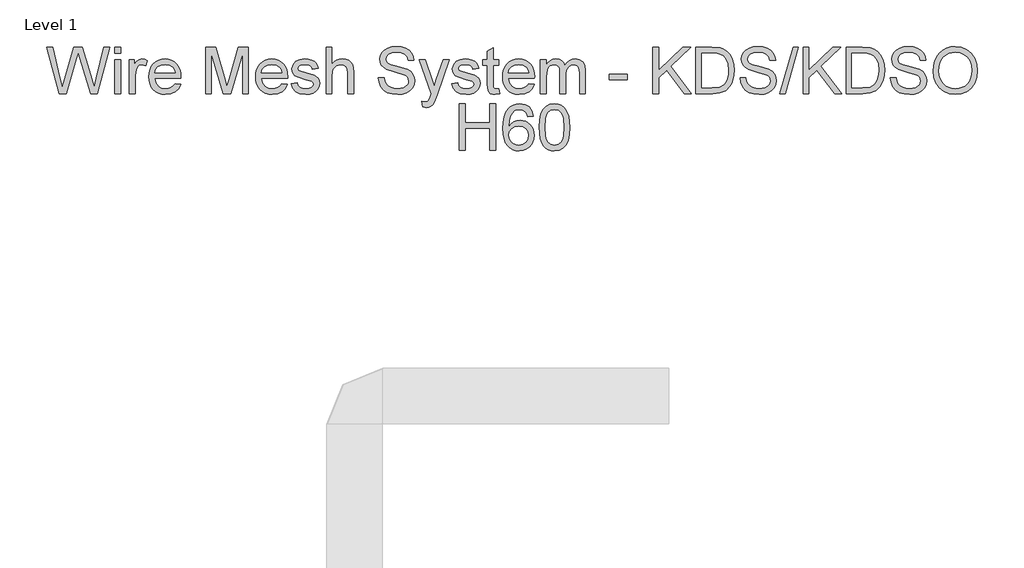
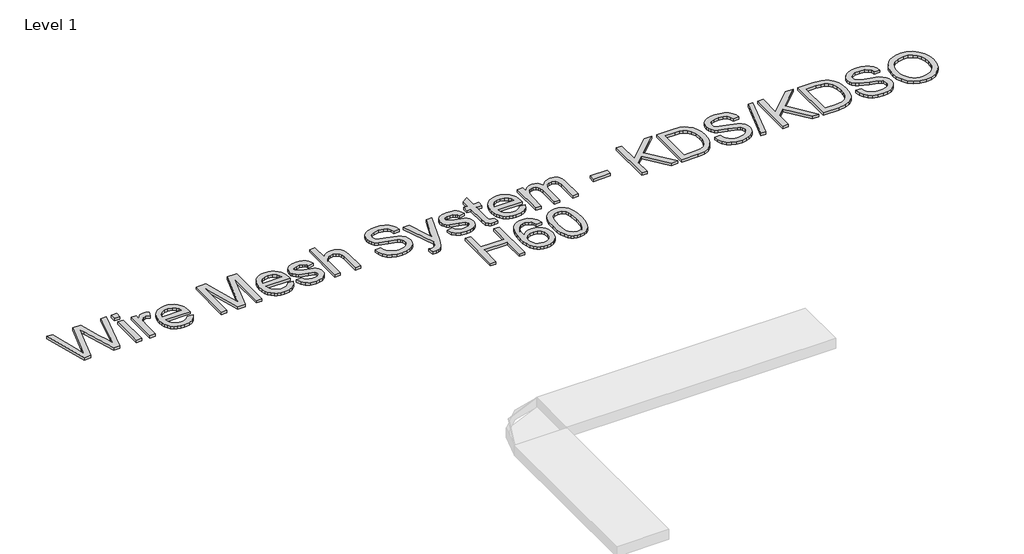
# One storey, part 28 of 32: 1 proxy.
"""IFC4 building model written with IfcOpenShell, lengths in millimetres."""

from ifc_helpers import new_model, si_unit, origin, origin_with_axes, place, context, project, spatial, polyline, outline, extrude, element, save

model = new_model("IFC4")

# Units and contexts
model_context = context("Model", 3, world=origin())
ifc_project = project(units=[si_unit("LENGTHUNIT", "METRE", prefix="MILLI")], contexts=[model_context])

# Site, building, storey
site = spatial("IfcSite", under=ifc_project)
building = spatial("IfcBuilding", under=site)
storey = spatial("IfcBuildingStorey", under=building, Name="Level 1", Elevation=0.0)

# Proxy
placement = place(None, origin())
element("IfcBuildingElementProxy", 1, Name="250mm Arial 3", ObjectType="250mm Arial 3", at=placement, inside=storey, context=model_context, shape_type="SweptSolid", body=[
    extrude(outline(polyline([(10674.6936773, 57703.1379564), (10606.2063125, 57954.2787318), (10638.5799281, 57954.2787318), (10678.3111836, 57789.2223433), (10690.5739168, 57738.2706869), (10703.6950412, 57783.3362313), (10753.4817379, 57954.2787318), (10800.1414376, 57954.2787318), (10836.3165005, 57830.3638131), (10851.8135296, 57784.3785637), (10863.2331998, 57738.2706869), (10875.128051, 57787.7508153), (10915.2271885, 57954.2787318), (10947.600804, 57954.2787318), (10879.0521256, 57703.1379564), (10845.5135504, 57703.1379564), (10785.3035305, 57896.8891405), (10776.9035583, 57923.9284672), (10767.4612537, 57891.3709106), (10712.5855228, 57703.1379564), (10674.6936773, 57703.1379564)])), origin_with_axes(), (0.0, 0.0, 1.0), 15.0),
    extrude(outline(polyline([(10975.0693264, 57922.8861348), (10975.0693264, 57954.2787318), (11006.4619233, 57954.2787318), (11006.4619233, 57922.8861348), (10975.0693264, 57922.8861348)])), origin_with_axes(), (0.0, 0.0, 1.0), 15.0),
    extrude(outline(polyline([(10975.0693264, 57703.1379564), (10975.0693264, 57887.5694633), (11006.4619233, 57887.5694633), (11006.4619233, 57703.1379564), (10975.0693264, 57703.1379564)])), origin_with_axes(), (0.0, 0.0, 1.0), 15.0),
    extrude(outline(polyline([(11053.5508187, 57703.1379564), (11053.5508187, 57887.5694633), (11081.019341, 57887.5694633), (11081.019341, 57860.284882), (11091.1667527, 57876.1038078), (11100.5170867, 57885.423485), (11120.1374598, 57891.4935379), (11135.7724446, 57889.0716481), (11151.652684, 57881.8059787), (11141.1680472, 57853.6630061), (11119.0951275, 57860.100941), (11109.7218008, 57858.5527709), (11101.3448212, 57853.9082608), (11090.0324498, 57836.7404343), (11084.9434156, 57800.0748621), (11084.9434156, 57703.1379564), (11053.5508187, 57703.1379564)])), origin_with_axes(), (0.0, 0.0, 1.0), 15.0),
    extrude(outline(polyline([(11300.3996374, 57758.075001), (11331.1790977, 57754.1509264), (11320.0889884, 57730.9590323), (11302.3923316, 57713.6225933), (11278.4876661, 57702.8160597), (11248.7735308, 57699.2138818), (11229.2949455, 57700.7678), (11211.939346, 57705.4295547), (11196.7067321, 57713.1991458), (11183.597104, 57724.0765733), (11173.0549855, 57737.759101), (11165.5249009, 57753.9439928), (11161.0068502, 57772.6312485), (11159.5008333, 57793.8208682), (11161.0221786, 57815.7290074), (11165.5862146, 57835.0389801), (11173.1929413, 57851.7507861), (11183.8423586, 57865.8644256), (11196.9174979, 57877.0771622), (11211.8013903, 57885.0862598), (11228.4940358, 57889.8917184), (11246.9954345, 57891.4935379), (11264.9009409, 57889.8955505), (11281.0934969, 57885.1015883), (11295.5731023, 57877.1116512), (11308.3397572, 57865.9257393), (11318.7611643, 57851.8427566), (11326.2050265, 57835.1616074), (11330.6713439, 57815.8822916), (11332.1601163, 57794.0048092), (11331.9761753, 57785.5435233), (11190.8934302, 57785.5435233), (11196.3273538, 57762.0450609), (11208.9503048, 57744.7699355), (11227.1681278, 57734.1473429), (11249.3866674, 57730.6064787), (11266.0946414, 57732.2466193), (11280.1661277, 57737.1670409), (11291.6011264, 57745.6743121), (11300.3996374, 57758.075001)]), holes=[polyline([(11190.8934302, 57816.9361202), (11300.7675194, 57816.9361202), (11296.5215481, 57833.5214669), (11288.1982179, 57845.3856612), (11269.8960887, 57856.4221211), (11246.8728071, 57860.100941), (11225.7119282, 57857.1655493), (11208.2145408, 57848.359374), (11196.0514423, 57834.632777), (11190.8934302, 57816.9361202)])]), origin_with_axes(), (0.0, 0.0, 1.0), 15.0),
    extrude(outline(polyline([(11465.5786533, 57703.1379564), (11465.5786533, 57954.2787318), (11519.5959929, 57954.2787318), (11570.9768449, 57777.2661784), (11581.3388544, 57740.2940379), (11592.5592553, 57780.3318617), (11643.0817159, 57954.2787318), (11697.0990556, 57954.2787318), (11697.0990556, 57703.1379564), (11665.7064586, 57703.1379564), (11665.7064586, 57922.8861348), (11602.6146965, 57703.1379564), (11560.0630124, 57703.1379564), (11496.9712502, 57922.8861348), (11496.9712502, 57703.1379564), (11465.5786533, 57703.1379564)])), origin_with_axes(), (0.0, 0.0, 1.0), 15.0),
    extrude(outline(polyline([(11877.2386059, 57758.075001), (11908.0180661, 57754.1509264), (11896.9279568, 57730.9590323), (11879.2313, 57713.6225933), (11855.3266345, 57702.8160597), (11825.6124992, 57699.2138818), (11806.133914, 57700.7678), (11788.7783144, 57705.4295547), (11773.5457006, 57713.1991458), (11760.4360724, 57724.0765733), (11749.893954, 57737.759101), (11742.3638694, 57753.9439928), (11737.8458186, 57772.6312485), (11736.3398017, 57793.8208682), (11737.861147, 57815.7290074), (11742.425183, 57835.0389801), (11750.0319097, 57851.7507861), (11760.6813271, 57865.8644256), (11773.7564663, 57877.0771622), (11788.6403587, 57885.0862598), (11805.3330042, 57889.8917184), (11823.8344029, 57891.4935379), (11841.7399094, 57889.8955505), (11857.9324653, 57885.1015883), (11872.4120707, 57877.1116512), (11885.1787256, 57865.9257393), (11895.6001327, 57851.8427566), (11903.043995, 57835.1616074), (11907.5103123, 57815.8822916), (11908.9990848, 57794.0048092), (11908.8151438, 57785.5435233), (11767.7323986, 57785.5435233), (11773.1663223, 57762.0450609), (11785.7892732, 57744.7699355), (11804.0070962, 57734.1473429), (11826.2256359, 57730.6064787), (11842.9336098, 57732.2466193), (11857.0050961, 57737.1670409), (11868.4400948, 57745.6743121), (11877.2386059, 57758.075001)]), holes=[polyline([(11767.7323986, 57816.9361202), (11877.6064879, 57816.9361202), (11873.3605165, 57833.5214669), (11865.0371864, 57845.3856612), (11846.7350571, 57856.4221211), (11823.7117756, 57860.100941), (11802.5508966, 57857.1655493), (11785.0535092, 57848.359374), (11772.8904108, 57834.632777), (11767.7323986, 57816.9361202)])]), origin_with_axes(), (0.0, 0.0, 1.0), 15.0),
    extrude(outline(polyline([(11928.6194579, 57758.075001), (11960.0120548, 57761.9990756), (11964.9631333, 57748.5713828), (11974.5433936, 57738.6998826), (11988.8141493, 57732.6298297), (12007.8367141, 57730.6064787), (12026.6293527, 57732.4612171), (12039.8424477, 57738.0254323), (12047.6599401, 57746.0881793), (12050.2657709, 57755.4385134), (12047.6446117, 57763.4399468), (12039.7811341, 57769.5406565), (12007.4688322, 57778.4924517), (11960.1959958, 57793.851525), (11948.2321667, 57801.5693827), (11939.5639472, 57811.7857723), (11934.2986362, 57823.8492361), (11932.5435325, 57837.1083163), (11938.1843897, 57860.4994798), (11953.5741199, 57878.3724134), (11973.5317181, 57887.6614338), (12000.5403879, 57891.4935379), (12020.9731671, 57889.9530321), (12038.7388017, 57885.3315145), (12053.0248859, 57878.0811735), (12063.0190134, 57868.6541974), (12069.6408893, 57856.3531432), (12073.8102186, 57840.4805679), (12042.4176217, 57836.5564933), (12038.455226, 57846.4356577), (12030.614741, 57853.8776039), (12018.8195245, 57858.5451067), (12002.9929345, 57860.100941), (11984.9667168, 57858.6140846), (11972.9492383, 57854.1535154), (11966.1894066, 57847.7155805), (11963.9361294, 57840.2966269), (11967.676263, 57831.1608907), (11979.3871732, 57824.2324465), (12006.4264998, 57817.5492569), (12052.5037197, 57802.7726634), (12064.6744824, 57795.7062634), (12073.9021891, 57786.0340326), (12079.7193232, 57773.7253142), (12081.6583678, 57758.7494513), (12079.382098, 57743.2677507), (12072.5532885, 57728.7057551), (12061.4325223, 57716.2054314), (12046.2803826, 57706.9087468), (12027.9782534, 57701.137598), (12007.4075185, 57699.2138818), (11975.7543385, 57702.9233586), (11952.6544149, 57714.0517889), (11937.2340279, 57732.4765455), (11928.6194579, 57758.075001)])), origin_with_axes(), (0.0, 0.0, 1.0), 15.0),
    extrude(outline(polyline([(12116.9750394, 57703.1379564), (12116.9750394, 57954.2787318), (12148.3676363, 57954.2787318), (12148.3676363, 57861.940351), (12159.8984376, 57874.8698703), (12172.8471174, 57884.1052412), (12187.2136757, 57889.6464637), (12202.9981126, 57891.4935379), (12221.9593638, 57889.4778512), (12238.2534705, 57883.4307909), (12251.083355, 57873.8275379), (12259.6519398, 57861.1432733), (12264.480391, 57843.7148638), (12266.0898748, 57819.8791762), (12266.0898748, 57703.1379564), (12234.6972778, 57703.1379564), (12234.6972778, 57816.6295519), (12232.198746, 57836.2805818), (12224.7031503, 57849.7389315), (12212.6243581, 57857.5104386), (12196.3762367, 57860.100941), (12183.1094922, 57858.3535015), (12170.6551538, 57853.1111831), (12160.3391296, 57844.8798235), (12153.4873274, 57834.1652603), (12149.6475591, 57819.9251614), (12148.3676363, 57801.1171944), (12148.3676363, 57703.1379564), (12116.9750394, 57703.1379564)])), origin_with_axes(), (0.0, 0.0, 1.0), 15.0),
    extrude(outline(polyline([(12399.5084117, 57789.4675979), (12430.9010086, 57789.4675979), (12434.5031865, 57772.0468526), (12441.0177635, 57758.0443442), (12451.1805036, 57746.9312422), (12465.7271708, 57738.1787164), (12483.5081339, 57732.4995381), (12503.3737617, 57730.6064787), (12520.8634848, 57732.0396856), (12536.1765729, 57736.3393065), (12548.584926, 57743.1451234), (12557.3604444, 57752.0969186), (12562.5797703, 57762.3746218), (12564.3195455, 57773.1581628), (12559.1078839, 57792.7478791), (12551.1677642, 57800.4963936), (12537.7707282, 57807.0033064), (12492.0613903, 57818.990128), (12442.8571734, 57834.4718287), (12427.2298529, 57845.0331076), (12416.155072, 57857.8323354), (12409.5561887, 57872.5936004), (12407.3565609, 57889.0409913), (12410.0773548, 57907.4274268), (12418.2397366, 57924.5722607), (12431.6291084, 57939.1035995), (12450.0308724, 57949.64955), (12472.1191205, 57956.0644923), (12496.5679447, 57958.2028064), (12523.0554484, 57955.9648576), (12546.2320141, 57949.2510112), (12565.2699073, 57938.1992229), (12579.3413937, 57922.9474485), (12588.2472036, 57904.4460498), (12591.7880678, 57883.6453887), (12560.3954709, 57883.6453887), (12554.6319863, 57902.3767136), (12542.6145078, 57915.8963769), (12523.8371976, 57924.0817513), (12497.7942181, 57926.8102095), (12471.1381018, 57924.1124082), (12452.851301, 57916.0190043), (12442.2746936, 57904.1088247), (12438.7491578, 57889.9606963), (12441.2476897, 57877.8972325), (12448.7432854, 57868.1943449), (12466.4629348, 57859.5184612), (12500.00151, 57850.6586365), (12555.5516913, 57834.9010243), (12573.4476175, 57823.5120109), (12585.9326127, 57809.455853), (12593.26726, 57792.8858348), (12595.7121424, 57773.9552405), (12592.899378, 57754.6031147), (12584.4610848, 57736.4006201), (12570.742152, 57720.7349785), (12552.0874692, 57708.9934115), (12529.6543317, 57701.6587642), (12504.600035, 57699.2138818), (12473.8435673, 57701.8503694), (12448.5286875, 57709.7598323), (12428.3641557, 57722.9729273), (12413.0587318, 57741.5203112), (12403.2332169, 57764.1143971), (12399.5084117, 57789.4675979)])), origin_with_axes(), (0.0, 0.0, 1.0), 15.0),
    extrude(outline(polyline([(12638.8769632, 57632.5046133), (12634.9528886, 57662.7322506), (12650.8944417, 57659.9731356), (12665.7936625, 57663.4373577), (12674.9293987, 57673.0942601), (12683.513312, 57696.2095122), (12685.9658586, 57703.8124067), (12619.2565901, 57887.5694633), (12652.3659697, 57887.5694633), (12687.7439549, 57785.1756413), (12700.0680017, 57744.2181125), (12712.3920486, 57780.3931754), (12748.7510524, 57887.5694633), (12781.6151773, 57887.5694633), (12717.4197692, 57698.7233725), (12700.7424521, 57657.7658437), (12692.2045241, 57644.6907044), (12682.5322933, 57635.6316103), (12671.296564, 57630.3433066), (12658.0681406, 57628.5805387), (12638.8769632, 57632.5046133)])), origin_with_axes(), (0.0, 0.0, 1.0), 15.0),
    extrude(outline(polyline([(12795.8399478, 57758.075001), (12827.2325447, 57761.9990756), (12832.1836233, 57748.5713828), (12841.7638835, 57738.6998826), (12856.0346393, 57732.6298297), (12875.0572041, 57730.6064787), (12893.8498427, 57732.4612171), (12907.0629377, 57738.0254323), (12914.8804301, 57746.0881793), (12917.4862609, 57755.4385134), (12914.8651017, 57763.4399468), (12907.001624, 57769.5406565), (12874.6893221, 57778.4924517), (12827.4164857, 57793.851525), (12815.4526567, 57801.5693827), (12806.7844372, 57811.7857723), (12801.5191261, 57823.8492361), (12799.7640224, 57837.1083163), (12805.4048797, 57860.4994798), (12820.7946098, 57878.3724134), (12840.7522081, 57887.6614338), (12867.7608779, 57891.4935379), (12888.193657, 57889.9530321), (12905.9592917, 57885.3315145), (12920.2453759, 57878.0811735), (12930.2395034, 57868.6541974), (12936.8613793, 57856.3531432), (12941.0307086, 57840.4805679), (12909.6381117, 57836.5564933), (12905.675716, 57846.4356577), (12897.835231, 57853.8776039), (12886.0400145, 57858.5451067), (12870.2134245, 57860.100941), (12852.1872067, 57858.6140846), (12840.1697282, 57854.1535154), (12833.4098966, 57847.7155805), (12831.1566194, 57840.2966269), (12834.896753, 57831.1608907), (12846.6076632, 57824.2324465), (12873.6469898, 57817.5492569), (12919.7242097, 57802.7726634), (12931.8949724, 57795.7062634), (12941.1226791, 57786.0340326), (12946.9398131, 57773.7253142), (12948.8788578, 57758.7494513), (12946.602588, 57743.2677507), (12939.7737784, 57728.7057551), (12928.6530123, 57716.2054314), (12913.5008726, 57706.9087468), (12895.1987433, 57701.137598), (12874.6280085, 57699.2138818), (12842.9748284, 57702.9233586), (12819.8749048, 57714.0517889), (12804.4545179, 57732.4765455), (12795.8399478, 57758.075001)])), origin_with_axes(), (0.0, 0.0, 1.0), 15.0),
    extrude(outline(polyline([(13050.9047978, 57729.3188917), (13054.8288724, 57702.2182514), (13031.3457384, 57699.2138818), (13016.277905, 57700.5167972), (13005.0421757, 57704.4255434), (12991.9210512, 57718.0984909), (12988.119604, 57753.7217307), (12988.119604, 57856.1768664), (12964.5751563, 57856.1768664), (12964.5751563, 57887.5694633), (12988.119604, 57887.5694633), (12988.119604, 57932.3897531), (13019.5122009, 57950.8451665), (13019.5122009, 57887.5694633), (13050.9047978, 57887.5694633), (13050.9047978, 57856.1768664), (13019.5122009, 57856.1768664), (13019.5122009, 57754.6414357), (13021.1676699, 57738.4546279), (13026.5326156, 57732.7218002), (13037.2318503, 57730.6064787), (13050.9047978, 57729.3188917)])), origin_with_axes(), (0.0, 0.0, 1.0), 15.0),
    extrude(outline(polyline([(13211.423975, 57758.075001), (13242.2034353, 57754.1509264), (13231.113326, 57730.9590323), (13213.4166692, 57713.6225933), (13189.5120037, 57702.8160597), (13159.7978684, 57699.2138818), (13140.3192832, 57700.7678), (13122.9636836, 57705.4295547), (13107.7310697, 57713.1991458), (13094.6214416, 57724.0765733), (13084.0793231, 57737.759101), (13076.5492386, 57753.9439928), (13072.0311878, 57772.6312485), (13070.5251709, 57793.8208682), (13072.0465162, 57815.7290074), (13076.6105522, 57835.0389801), (13084.2172789, 57851.7507861), (13094.8666962, 57865.8644256), (13107.9418355, 57877.0771622), (13122.8257279, 57885.0862598), (13139.5183734, 57889.8917184), (13158.0197721, 57891.4935379), (13175.9252786, 57889.8955505), (13192.1178345, 57885.1015883), (13206.5974399, 57877.1116512), (13219.3640948, 57865.9257393), (13229.7855019, 57851.8427566), (13237.2293642, 57835.1616074), (13241.6956815, 57815.8822916), (13243.184454, 57794.0048092), (13243.000513, 57785.5435233), (13101.9177678, 57785.5435233), (13107.3516914, 57762.0450609), (13119.9746424, 57744.7699355), (13138.1924654, 57734.1473429), (13160.411005, 57730.6064787), (13177.118979, 57732.2466193), (13191.1904653, 57737.1670409), (13202.625464, 57745.6743121), (13211.423975, 57758.075001)]), holes=[polyline([(13101.9177678, 57816.9361202), (13211.791857, 57816.9361202), (13207.5458857, 57833.5214669), (13199.2225555, 57845.3856612), (13180.9204263, 57856.4221211), (13157.8971447, 57860.100941), (13136.7362658, 57857.1655493), (13119.2388784, 57848.359374), (13107.0757799, 57834.632777), (13101.9177678, 57816.9361202)])]), origin_with_axes(), (0.0, 0.0, 1.0), 15.0),
    extrude(outline(polyline([(13274.5770509, 57703.1379564), (13274.5770509, 57887.5694633), (13305.9696478, 57887.5694633), (13305.9696478, 57857.2191987), (13315.4119523, 57871.1603935), (13327.5520582, 57882.0818902), (13341.9760981, 57889.140626), (13358.2702048, 57891.4935379), (13375.7292711, 57889.0946407), (13389.7241154, 57881.8979492), (13400.1780954, 57870.3786442), (13407.0145691, 57855.0119067), (13418.457232, 57870.9726204), (13431.5093787, 57882.3731301), (13446.171009, 57889.213436), (13462.4421231, 57891.4935379), (13486.0402202, 57887.6997549), (13503.4916224, 57876.3184056), (13514.2751634, 57857.0429219), (13517.869677, 57829.5667354), (13517.869677, 57703.1379564), (13486.4770801, 57703.1379564), (13486.4770801, 57816.0777289), (13483.564681, 57842.2893211), (13473.0187304, 57855.1958477), (13455.0844832, 57860.100941), (13438.0776051, 57856.9586156), (13424.2130524, 57847.5316395), (13414.9930099, 57831.1762191), (13411.9196624, 57807.248561), (13411.9196624, 57703.1379564), (13380.5270655, 57703.1379564), (13380.5270655, 57819.5726079), (13378.7106481, 57837.3229141), (13373.2613961, 57849.9841861), (13363.6734716, 57857.5717523), (13349.4410369, 57860.100941), (13337.3469163, 57858.4148152), (13326.2031575, 57853.3564378), (13317.0061077, 57845.048436), (13310.7521137, 57833.6134374), (13305.9696478, 57796.1507875), (13305.9696478, 57703.1379564), (13274.5770509, 57703.1379564)])), origin_with_axes(), (0.0, 0.0, 1.0), 15.0),
    extrude(outline(polyline([(13647.3641393, 57777.6953741), (13647.3641393, 57809.087971), (13745.4660047, 57809.087971), (13745.4660047, 57777.6953741), (13647.3641393, 57777.6953741)])), origin_with_axes(), (0.0, 0.0, 1.0), 15.0),
    extrude(outline(polyline([(13882.8086162, 57703.1379564), (13882.8086162, 57954.2787318), (13914.2012132, 57954.2787318), (13914.2012132, 57831.3448317), (14042.9599115, 57954.2787318), (14086.8604962, 57954.2787318), (13978.7645033, 57851.0265185), (14090.7845708, 57703.1379564), (14052.402216, 57703.1379564), (13956.5076426, 57829.8119901), (13914.2012132, 57789.4675979), (13914.2012132, 57703.1379564), (13882.8086162, 57703.1379564)])), origin_with_axes(), (0.0, 0.0, 1.0), 15.0),
    extrude(outline(polyline([(14114.3290185, 57703.1379564), (14114.3290185, 57954.2787318), (14200.9652284, 57954.2787318), (14245.7855181, 57950.6612255), (14265.80443, 57943.686796), (14282.696345, 57932.6963214), (14300.0634408, 57913.5664576), (14312.4334729, 57889.7767553), (14319.8370981, 57861.7870668), (14322.3049731, 57830.0572447), (14320.6341757, 57803.1022244), (14315.6217836, 57779.3814999), (14307.9882322, 57759.1863112), (14298.4539571, 57742.8078982), (14275.5226461, 57720.0298713), (14245.5096066, 57707.429913), (14205.1345577, 57703.1379564), (14114.3290185, 57703.1379564)]), holes=[polyline([(14145.7216155, 57734.5305533), (14201.2717967, 57734.5305533), (14241.6775025, 57739.0677646), (14264.9766956, 57751.8823208), (14275.8828639, 57765.470962), (14284.0759025, 57783.0603198), (14289.2032578, 57804.7270365), (14290.9123762, 57830.5477541), (14287.5631172, 57864.7607796), (14277.5153402, 57890.0220099), (14262.6697689, 57907.3737774), (14244.9271268, 57917.8584142), (14226.8702522, 57921.6292047), (14200.4134054, 57922.8861348), (14145.7216155, 57922.8861348), (14145.7216155, 57734.5305533)])]), origin_with_axes(), (0.0, 0.0, 1.0), 15.0),
    extrude(outline(polyline([(14353.6975701, 57789.4675979), (14385.090167, 57789.4675979), (14388.6923449, 57772.0468526), (14395.2069218, 57758.0443442), (14405.369662, 57746.9312422), (14419.9163292, 57738.1787164), (14437.6972923, 57732.4995381), (14457.56292, 57730.6064787), (14475.0526432, 57732.0396856), (14490.3657313, 57736.3393065), (14502.7740844, 57743.1451234), (14511.5496028, 57752.0969186), (14516.7689286, 57762.3746218), (14518.5087039, 57773.1581628), (14513.2970423, 57792.7478791), (14505.3569226, 57800.4963936), (14491.9598866, 57807.0033064), (14446.2505487, 57818.990128), (14397.0463318, 57834.4718287), (14381.4190112, 57845.0331076), (14370.3442303, 57857.8323354), (14363.7453471, 57872.5936004), (14361.5457193, 57889.0409913), (14364.2665132, 57907.4274268), (14372.428895, 57924.5722607), (14385.8182668, 57939.1035995), (14404.2200307, 57949.64955), (14426.3082789, 57956.0644923), (14450.7571031, 57958.2028064), (14477.2446068, 57955.9648576), (14500.4211725, 57949.2510112), (14519.4590657, 57938.1992229), (14533.530552, 57922.9474485), (14542.436362, 57904.4460498), (14545.9772262, 57883.6453887), (14514.5846293, 57883.6453887), (14508.8211447, 57902.3767136), (14496.8036662, 57915.8963769), (14478.026356, 57924.0817513), (14451.9833764, 57926.8102095), (14425.3272602, 57924.1124082), (14407.0404594, 57916.0190043), (14396.463852, 57904.1088247), (14392.9383162, 57889.9606963), (14395.4368481, 57877.8972325), (14402.9324437, 57868.1943449), (14420.6520932, 57859.5184612), (14454.1906684, 57850.6586365), (14509.7408497, 57834.9010243), (14527.6367759, 57823.5120109), (14540.1217711, 57809.455853), (14547.4564184, 57792.8858348), (14549.9013008, 57773.9552405), (14547.0885364, 57754.6031147), (14538.6502431, 57736.4006201), (14524.9313104, 57720.7349785), (14506.2766276, 57708.9934115), (14483.8434901, 57701.6587642), (14458.7891933, 57699.2138818), (14428.0327257, 57701.8503694), (14402.7178459, 57709.7598323), (14382.5533141, 57722.9729273), (14367.2478902, 57741.5203112), (14357.4223753, 57764.1143971), (14353.6975701, 57789.4675979)])), origin_with_axes(), (0.0, 0.0, 1.0), 15.0),
    extrude(outline(polyline([(14569.5216739, 57703.1379564), (14640.155017, 57954.2787318), (14668.4819306, 57954.2787318), (14597.8485875, 57703.1379564), (14569.5216739, 57703.1379564)])), origin_with_axes(), (0.0, 0.0, 1.0), 15.0),
    extrude(outline(polyline([(14695.0920616, 57703.1379564), (14695.0920616, 57954.2787318), (14726.4846585, 57954.2787318), (14726.4846585, 57831.3448317), (14855.2433568, 57954.2787318), (14899.1439416, 57954.2787318), (14791.0479487, 57851.0265185), (14903.0680162, 57703.1379564), (14864.6856614, 57703.1379564), (14768.791088, 57829.8119901), (14726.4846585, 57789.4675979), (14726.4846585, 57703.1379564), (14695.0920616, 57703.1379564)])), origin_with_axes(), (0.0, 0.0, 1.0), 15.0),
    extrude(outline(polyline([(14926.6124639, 57703.1379564), (14926.6124639, 57954.2787318), (15013.2486737, 57954.2787318), (15058.0689635, 57950.6612255), (15078.0878754, 57943.686796), (15094.9797903, 57932.6963214), (15112.3468862, 57913.5664576), (15124.7169183, 57889.7767553), (15132.1205434, 57861.7870668), (15134.5884185, 57830.0572447), (15132.9176211, 57803.1022244), (15127.9052289, 57779.3814999), (15120.2716775, 57759.1863112), (15110.7374025, 57742.8078982), (15087.8060914, 57720.0298713), (15057.793052, 57707.429913), (15017.418003, 57703.1379564), (14926.6124639, 57703.1379564)]), holes=[polyline([(14958.0050608, 57734.5305533), (15013.5552421, 57734.5305533), (15053.9609479, 57739.0677646), (15077.2601409, 57751.8823208), (15088.1663092, 57765.470962), (15096.3593478, 57783.0603198), (15101.4867031, 57804.7270365), (15103.1958216, 57830.5477541), (15099.8465626, 57864.7607796), (15089.7987856, 57890.0220099), (15074.9532142, 57907.3737774), (15057.2105722, 57917.8584142), (15039.1536976, 57921.6292047), (15012.6968508, 57922.8861348), (14958.0050608, 57922.8861348), (14958.0050608, 57734.5305533)])]), origin_with_axes(), (0.0, 0.0, 1.0), 15.0),
    extrude(outline(polyline([(15165.9810154, 57789.4675979), (15197.3736123, 57789.4675979), (15200.9757902, 57772.0468526), (15207.4903672, 57758.0443442), (15217.6531073, 57746.9312422), (15232.1997745, 57738.1787164), (15249.9807376, 57732.4995381), (15269.8463654, 57730.6064787), (15287.3360886, 57732.0396856), (15302.6491766, 57736.3393065), (15315.0575297, 57743.1451234), (15323.8330482, 57752.0969186), (15329.052374, 57762.3746218), (15330.7921492, 57773.1581628), (15325.5804877, 57792.7478791), (15317.6403679, 57800.4963936), (15304.2433319, 57807.0033064), (15258.533994, 57818.990128), (15209.3297772, 57834.4718287), (15193.7024566, 57845.0331076), (15182.6276757, 57857.8323354), (15176.0287924, 57872.5936004), (15173.8291646, 57889.0409913), (15176.5499586, 57907.4274268), (15184.7123403, 57924.5722607), (15198.1017121, 57939.1035995), (15216.5034761, 57949.64955), (15238.5917242, 57956.0644923), (15263.0405485, 57958.2028064), (15289.5280521, 57955.9648576), (15312.7046178, 57949.2510112), (15331.7425111, 57938.1992229), (15345.8139974, 57922.9474485), (15354.7198074, 57904.4460498), (15358.2606716, 57883.6453887), (15326.8680746, 57883.6453887), (15321.10459, 57902.3767136), (15309.0871115, 57915.8963769), (15290.3098014, 57924.0817513), (15264.2668218, 57926.8102095), (15237.6107056, 57924.1124082), (15219.3239047, 57916.0190043), (15208.7472973, 57904.1088247), (15205.2217616, 57889.9606963), (15207.7202934, 57877.8972325), (15215.2158891, 57868.1943449), (15232.9355385, 57859.5184612), (15266.4741138, 57850.6586365), (15322.024295, 57834.9010243), (15339.9202213, 57823.5120109), (15352.4052165, 57809.455853), (15359.7398637, 57792.8858348), (15362.1847462, 57773.9552405), (15359.3719817, 57754.6031147), (15350.9336885, 57736.4006201), (15337.2147557, 57720.7349785), (15318.5600729, 57708.9934115), (15296.1269354, 57701.6587642), (15271.0726387, 57699.2138818), (15240.3161711, 57701.8503694), (15215.0012913, 57709.7598323), (15194.8367594, 57722.9729273), (15179.5313356, 57741.5203112), (15169.7058206, 57764.1143971), (15165.9810154, 57789.4675979)])), origin_with_axes(), (0.0, 0.0, 1.0), 15.0),
    extrude(outline(polyline([(15397.5014177, 57825.3974061), (15399.5937466, 57854.8547905), (15405.8707331, 57880.932259), (15416.3323773, 57903.6298117), (15430.9786793, 57922.9474485), (15448.9320871, 57938.3716676), (15469.3150488, 57949.3889669), (15492.1275647, 57955.9993465), (15517.3696345, 57958.2028064), (15550.3104015, 57954.0641339), (15579.84826, 57941.6481166), (15604.3737263, 57921.8284741), (15622.2773168, 57895.4789262), (15633.2218061, 57863.8717315), (15636.8699692, 57828.2791484), (15633.0302009, 57792.2113845), (15621.5108959, 57760.1596656), (15602.9481836, 57733.7641325), (15577.9781932, 57714.6649256), (15548.6932535, 57703.0766427), (15517.1856935, 57699.2138818), (15483.7390887, 57703.4828458), (15454.0326176, 57716.2897377), (15429.568465, 57736.4772622), (15411.8488155, 57762.8881238), (15401.0882672, 57793.2767094), (15397.5014177, 57825.3974061)]), holes=[polyline([(15428.8940146, 57825.0908378), (15430.4632613, 57804.2786803), (15435.1710012, 57785.8041064), (15443.0172344, 57769.667116), (15454.0019608, 57755.867709), (15467.3549276, 57744.8159208), (15482.3058818, 57736.9217863), (15498.8548234, 57732.1853056), (15517.0017525, 57730.6064787), (15535.459082, 57732.200634), (15552.2034609, 57736.9831), (15567.2348893, 57744.9538765), (15580.5533671, 57756.1129637), (15591.4576194, 57770.2036105), (15599.246371, 57786.969066), (15603.919622, 57806.4093302), (15605.4773723, 57828.5244031), (15602.8102278, 57856.3148221), (15594.8087945, 57880.3344507), (15581.6800058, 57899.9778164), (15563.6307954, 57914.6394468), (15541.8567798, 57923.7675188), (15517.5535755, 57926.8102095), (15483.785074, 57920.9470902), (15455.07495, 57903.3577323), (15443.6207907, 57889.6713724), (15435.4392485, 57872.0647701), (15430.5303231, 57850.5379252), (15428.8940146, 57825.0908378)])]), origin_with_axes(), (0.0, 0.0, 1.0), 15.0),
    extrude(outline(polyline([(12837.0427313, 57398.2009118), (12837.0427313, 57649.3416872), (12868.4353282, 57649.3416872), (12868.4353282, 57547.3157472), (13001.8538651, 57547.3157472), (13001.8538651, 57649.3416872), (13033.246462, 57649.3416872), (13033.246462, 57398.2009118), (13001.8538651, 57398.2009118), (13001.8538651, 57515.9231502), (12868.4353282, 57515.9231502), (12868.4353282, 57398.2009118), (12837.0427313, 57398.2009118)])), origin_with_axes(), (0.0, 0.0, 1.0), 15.0),
    extrude(outline(polyline([(13237.298342, 57582.6324187), (13205.9057451, 57578.7083441), (13200.8473677, 57594.2666868), (13194.0108939, 57604.8892794), (13179.770795, 57614.6841375), (13162.5569833, 57617.9490902), (13147.9643309, 57616.0483666), (13134.2300697, 57610.3461957), (13122.4348532, 57598.3363814), (13112.8009435, 57581.8046842), (13106.2940307, 57558.4211849), (13103.8798051, 57525.8559641), (13116.4720992, 57540.5482513), (13131.5629252, 57550.9025966), (13148.3092202, 57557.0416274), (13165.8679213, 57559.087971), (13194.8692853, 57553.493099), (13219.2108106, 57536.708483), (13228.8408882, 57524.7025008), (13235.7195151, 57511.0640422), (13241.2224166, 57478.8896961), (13238.6319143, 57456.4105733), (13230.8604071, 57435.5715911), (13218.5516887, 57417.8979269), (13202.3495525, 57404.9147582), (13182.9897625, 57396.9363174), (13161.2080827, 57394.2768372), (13142.4940022, 57396.0396051), (13125.592507, 57401.3279087), (13110.5035971, 57410.1417482), (13097.2272724, 57422.4811235), (13086.4034943, 57438.8672007), (13078.6722242, 57459.821146), (13074.0334622, 57485.3429594), (13072.4872082, 57515.4326409), (13074.2039908, 57549.1666534), (13079.3543388, 57577.9572517), (13087.938252, 57601.8044356), (13099.9557305, 57620.7082052), (13112.9810524, 57633.2353536), (13128.0833747, 57642.1833167), (13145.2626975, 57647.5520945), (13164.5190207, 57649.3416872), (13192.064185, 57644.9117748), (13214.1217763, 57631.6220377), (13229.5728201, 57610.5148082), (13237.298342, 57582.6324187)]), holes=[polyline([(13103.8798051, 57479.3802054), (13105.6962225, 57465.4696674), (13111.1454745, 57452.1875946), (13119.6067604, 57440.7679243), (13130.4592793, 57432.4445942), (13143.5574111, 57427.3632241), (13158.7555361, 57425.6694341), (13179.4718909, 57429.1796415), (13195.7583334, 57439.7102636), (13206.3119481, 57456.2649534), (13209.8298197, 57477.8473637), (13206.3579334, 57498.5637186), (13195.9422744, 57514.3596518), (13179.3799204, 57524.3614435), (13157.4679491, 57527.6953741), (13136.7822511, 57524.3614435), (13119.4841331, 57514.3596518), (13107.7808871, 57498.946929), (13103.8798051, 57479.3802054)])]), origin_with_axes(), (0.0, 0.0, 1.0), 15.0),
    extrude(outline(polyline([(13268.690939, 57521.7479485), (13270.9978656, 57561.9467207), (13277.9186457, 57594.0061037), (13289.3843012, 57618.4166069), (13305.3258543, 57635.6687397), (13325.8582682, 57645.9234503), (13351.0965059, 57649.3416872), (13370.4409675, 57647.3183362), (13387.7620781, 57641.2482833), (13402.2474316, 57631.3691189), (13413.0846221, 57617.9184334), (13427.7999019, 57580.7623519), (13432.0765301, 57555.0489333), (13433.5020728, 57521.7479485), (13431.2181387, 57481.7791026), (13424.3663366, 57449.7963616), (13412.9696589, 57425.3628658), (13397.0510984, 57408.0417552), (13376.4726993, 57397.7180667), (13351.0965059, 57394.2768372), (13333.8060521, 57395.7713578), (13318.4776356, 57400.2549196), (13305.1112565, 57407.7275226), (13293.7069146, 57418.1891669), (13282.7624253, 57437.1006007), (13274.9449329, 57460.6642089), (13270.2544374, 57488.8799915), (13268.690939, 57521.7479485)]), holes=[polyline([(13300.0835359, 57521.8092622), (13303.7623558, 57472.4287685), (13308.3608808, 57455.5387696), (13314.7988157, 57443.848936), (13331.2308781, 57430.2143096), (13351.0965059, 57425.6694341), (13370.9621336, 57430.229638), (13387.3941961, 57443.9102497), (13393.832131, 57455.6192438), (13398.4306559, 57472.5054106), (13402.1094759, 57521.8092622), (13398.5532832, 57570.0784456), (13394.1080425, 57586.912879), (13387.8847054, 57598.8805402), (13371.4832998, 57613.1819527), (13350.7286239, 57617.9490902), (13331.077594, 57613.7491041), (13315.289325, 57601.1491458), (13308.6367923, 57588.1199918), (13303.8849832, 57570.5536265), (13300.0835359, 57521.8092622)])]), origin_with_axes(), (0.0, 0.0, 1.0), 15.0),
])

save(model, "model.ifc")
